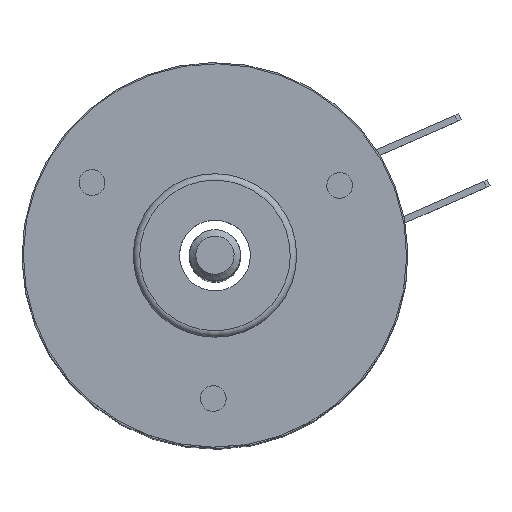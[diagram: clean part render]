
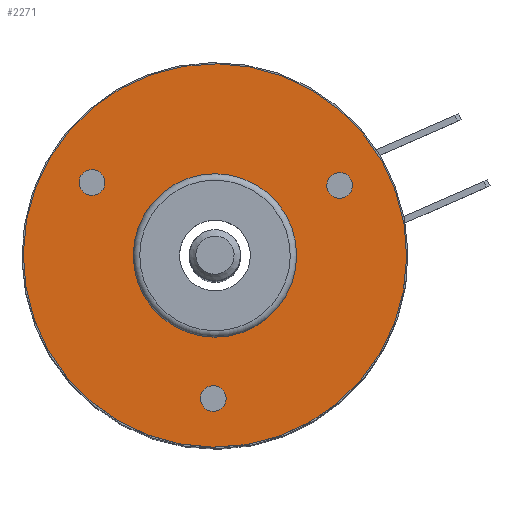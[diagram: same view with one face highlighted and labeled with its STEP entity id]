
A CAD part, top view. The second image highlights one B-rep face of the part: STEP entity #2271.
In plain terms, the highlighted planar face has unit normal (0, 0, 1) as drawn and (-1, 0, 0) by its records, which use the part's own axes.
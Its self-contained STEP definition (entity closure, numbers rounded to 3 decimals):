
#2087=CARTESIAN_POINT('',(1.57,-8.758,-6.056));
#2088=VERTEX_POINT('',#2087);
#2089=CARTESIAN_POINT('',(1.57,-9.624,-5.556));
#2090=DIRECTION('',(1.0,0.0,0.0));
#2091=DIRECTION('',(0.0,0.866,-0.5));
#2092=AXIS2_PLACEMENT_3D('',#2089,#2090,#2091);
#2093=CIRCLE('',#2092,1.);
#2094=EDGE_CURVE('',#2088,#2088,#2093,.T.);
#2115=CARTESIAN_POINT('',(1.57,-0.866,10.613));
#2116=VERTEX_POINT('',#2115);
#2117=CARTESIAN_POINT('',(1.57,0.,11.113));
#2118=DIRECTION('',(1.,0.0,0.0));
#2119=DIRECTION('',(0.0,-0.866,-0.5));
#2120=AXIS2_PLACEMENT_3D('',#2117,#2118,#2119);
#2121=CIRCLE('',#2120,1.0);
#2122=EDGE_CURVE('',#2116,#2116,#2121,.T.);
#2143=CARTESIAN_POINT('',(1.57,9.624,-4.556));
#2144=VERTEX_POINT('',#2143);
#2145=CARTESIAN_POINT('',(1.57,9.624,-5.556));
#2146=DIRECTION('',(1.0,0.0,0.0));
#2147=DIRECTION('',(0.0,0.0,1.0));
#2148=AXIS2_PLACEMENT_3D('',#2145,#2146,#2147);
#2149=CIRCLE('',#2148,1.0);
#2150=EDGE_CURVE('',#2144,#2144,#2149,.T.);
#2208=CARTESIAN_POINT('',(1.57,6.35,0.0));
#2209=VERTEX_POINT('',#2208);
#2210=CARTESIAN_POINT('',(1.57,0.0,0.0));
#2211=DIRECTION('',(1.0,0.0,0.0));
#2212=DIRECTION('',(0.0,1.0,0.0));
#2213=AXIS2_PLACEMENT_3D('',#2210,#2211,#2212);
#2214=CIRCLE('',#2213,6.35);
#2215=EDGE_CURVE('',#2209,#2209,#2214,.T.);
#2243=CARTESIAN_POINT('',(1.57,10.625,0.0));
#2244=DIRECTION('',(-1.0,0.0,0.0));
#2245=DIRECTION('',(0.0,0.0,1.0));
#2246=AXIS2_PLACEMENT_3D('',#2243,#2244,#2245);
#2247=PLANE('',#2246);
#2248=CARTESIAN_POINT('',(1.57,14.9,0.0));
#2249=VERTEX_POINT('',#2248);
#2250=CARTESIAN_POINT('',(1.57,0.0,0.0));
#2251=DIRECTION('',(1.0,0.0,0.0));
#2252=DIRECTION('',(0.0,1.0,0.0));
#2253=AXIS2_PLACEMENT_3D('',#2250,#2251,#2252);
#2254=CIRCLE('',#2253,14.9);
#2255=EDGE_CURVE('',#2249,#2249,#2254,.T.);
#2256=ORIENTED_EDGE('',*,*,#2255,.F.);
#2257=EDGE_LOOP('',(#2256));
#2258=FACE_OUTER_BOUND('',#2257,.T.);
#2259=ORIENTED_EDGE('',*,*,#2094,.T.);
#2260=EDGE_LOOP('',(#2259));
#2261=FACE_BOUND('',#2260,.T.);
#2262=ORIENTED_EDGE('',*,*,#2122,.T.);
#2263=EDGE_LOOP('',(#2262));
#2264=FACE_BOUND('',#2263,.T.);
#2265=ORIENTED_EDGE('',*,*,#2150,.T.);
#2266=EDGE_LOOP('',(#2265));
#2267=FACE_BOUND('',#2266,.T.);
#2268=ORIENTED_EDGE('',*,*,#2215,.T.);
#2269=EDGE_LOOP('',(#2268));
#2270=FACE_BOUND('',#2269,.T.);
#2271=ADVANCED_FACE('',(#2258,#2261,#2264,#2267,#2270),#2247,.T.);
